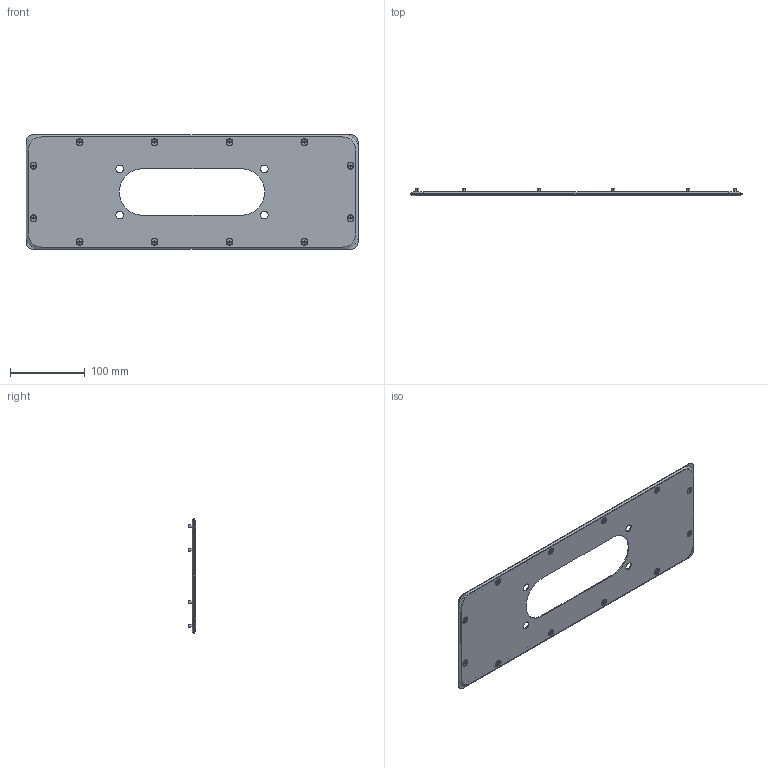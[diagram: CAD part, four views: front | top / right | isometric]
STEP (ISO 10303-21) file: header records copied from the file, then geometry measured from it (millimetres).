
FILE_DESCRIPTION (( 'STEP AP203' ), '1' );
FILE_NAME ('R5FPST02.STEP', '2024-03-22T08:41:41', ( '' ), ( '' ), 'SwSTEP 2.0', 'SolidWorks 2022', '' );
FILE_SCHEMA (( 'CONFIG_CONTROL_DESIGN' ));
Length unit declared in the file: millimetre
Products named in the file (5): R5FPST02; M4x10 DIN 7500 M PZ cl.4,8 Zinc_straight; PF 4x8 flange ST_03; RB.0185.00.00.0 СБ_-01; RB.0185.00.01.0_-01
Assembly tree (15 placements, depth 3):
  R5FPST02
    RB.0185.00.00.0 СБ_-01
      RB.0185.00.01.0_-01
      PF 4x8 flange ST_03
    M4x10 DIN 7500 M PZ cl.4,8 Zinc_straight  x12
Bounding box: 443 x 10 x 153 mm (x, y, z)
Volume: 103185 mm3; surface area: 139739.7 mm2
Topology: 14 solids, 14 shells, 598 faces, 1409 edges, 839 vertices
Faces by surface type: plane 260, cone 172, torus 84, cylinder 78, bspline 4
Entity records: 7980 total; most frequent: CARTESIAN_POINT 1702, DIRECTION 1291, ORIENTED_EDGE 1054, AXIS2_PLACEMENT_3D 547, EDGE_CURVE 527, VERTEX_POINT 322, CIRCLE 308, EDGE_LOOP 273
